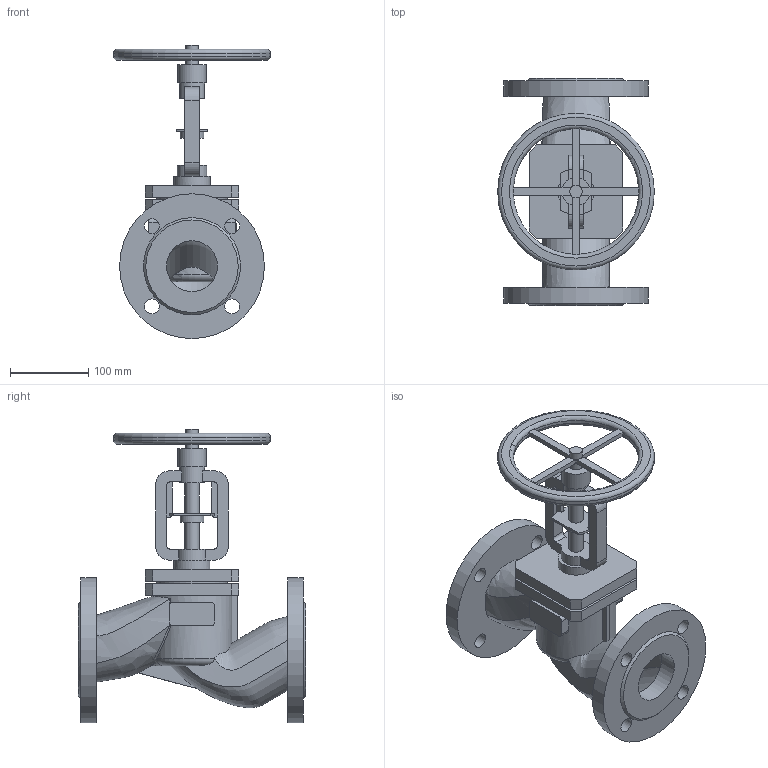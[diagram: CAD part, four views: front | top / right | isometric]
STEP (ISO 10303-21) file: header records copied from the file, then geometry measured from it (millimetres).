
FILE_DESCRIPTION(('STEP AP203'), '1');
FILE_NAME('Êëàïàí çàïîðíî-ðåãóëèðóþùèé BV2F DN65', '2026-09-22T07:53:15', ('Ýíåðãèÿ'), (''), 'ASCON STEP Converter 1.6', 'ASCON Math Kernel', '');
FILE_SCHEMA(('CONFIG_CONTROL_DESIGN'));
Length unit declared in the file: millimetre
Bounding box: 200 x 290 x 374.5 mm (x, y, z)
Volume: 2913970.3 mm3; surface area: 396141.8 mm2
Topology: 1 solids, 1 shells, 219 faces, 596 edges, 394 vertices
Faces by surface type: plane 117, cylinder 62, bspline 31, torus 7, cone 2
Full cylindrical faces by diameter (mm): 16 x1, 18 x2, 19 x8, 30 x1, 32 x1, 36 x1, 46 x1, 65 x1, 90 x1, 185 x2, 200 x1
Entity records: 24007 total; most frequent: CARTESIAN_POINT 16949, ORIENTED_EDGE 1136, DIRECTION 967, EDGE_CURVE 568, VERTEX_POINT 394, AXIS2_PLACEMENT_3D 356, EDGE_LOOP 290, LINE 255
